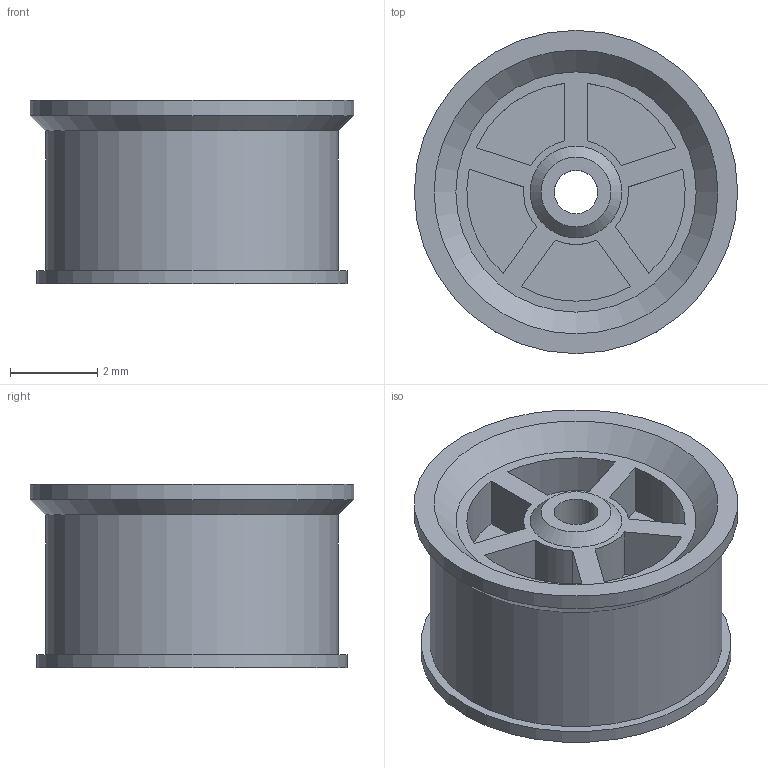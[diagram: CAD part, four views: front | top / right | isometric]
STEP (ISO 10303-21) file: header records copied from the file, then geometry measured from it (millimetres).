
FILE_DESCRIPTION(('Open CASCADE Model'),'2;1');
FILE_NAME('Open CASCADE Shape Model','2026-10-09T16:33:00',('Author'),( 'Open CASCADE'),'Open CASCADE STEP processor 8.0','build123d', 'Unknown');
FILE_SCHEMA(('AUTOMOTIVE_DESIGN { 1 0 10303 214 1 1 1 1 }'));
Length unit declared in the file: millimetre
Products named in the file (1): COMPOUND
Bounding box: 7.4 x 7.4 x 4.2 mm (x, y, z)
Volume: 122.7 mm3; surface area: 232.9 mm2
Topology: 1 solids, 1 shells, 37 faces, 79 edges, 52 vertices
Faces by surface type: plane 20, cylinder 14, cone 3
Full cylindrical faces by diameter (mm): 1 x1, 6.7 x1, 7.1 x1, 7.4 x1
Entity records: 2062 total; most frequent: CARTESIAN_POINT 414, DIRECTION 313, ORIENTED_EDGE 158, PCURVE 158, DEFINITIONAL_REPRESENTATION 158, LINE 154, VECTOR 154, EDGE_CURVE 79
